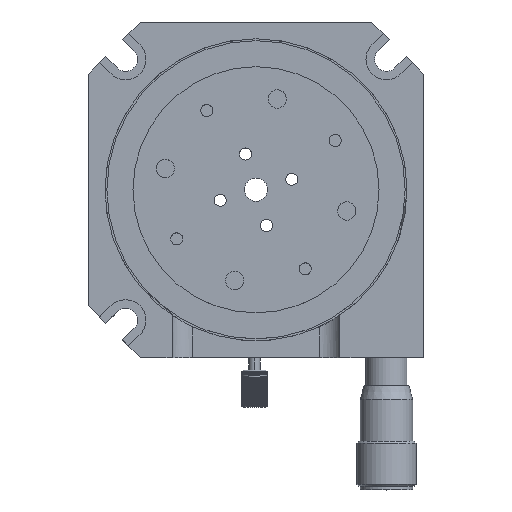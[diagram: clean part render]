
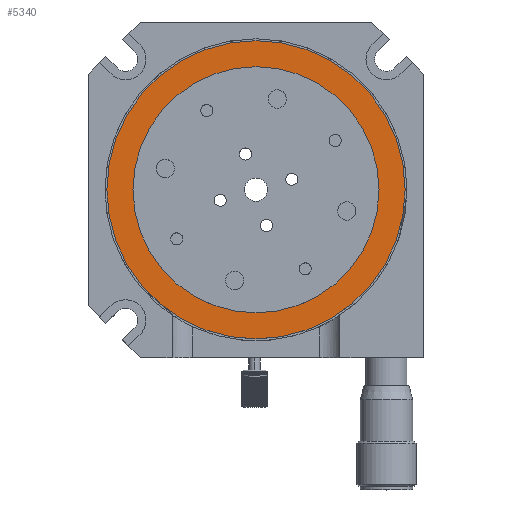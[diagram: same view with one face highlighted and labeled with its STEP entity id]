
A CAD part, top view. The second image highlights one B-rep face of the part: STEP entity #5340.
In plain terms, the highlighted planar face has unit normal (0, 0, 1).
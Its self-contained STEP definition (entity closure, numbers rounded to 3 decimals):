
#5281 = EDGE_CURVE ( 'NONE', #17258, #17332, #6754, .T. ) ;
#5340 = ADVANCED_FACE ( 'NONE', ( #6877, #6876 ), #6875, .T. ) ;
#5341 = EDGE_LOOP ( 'NONE', ( #5342, #5344 ) ) ;
#5342 = ORIENTED_EDGE ( 'NONE', *, *, #5343, .F. ) ;
#5343 = EDGE_CURVE ( 'NONE', #17414, #17340, #6870, .T. ) ;
#5344 = ORIENTED_EDGE ( 'NONE', *, *, #17413, .F. ) ;
#5345 = EDGE_LOOP ( 'NONE', ( #5346, #5347 ) ) ;
#5346 = ORIENTED_EDGE ( 'NONE', *, *, #5281, .T. ) ;
#5347 = ORIENTED_EDGE ( 'NONE', *, *, #17257, .T. ) ;
#6752 = DIRECTION ( 'NONE',  ( 0., 0., 1. ) ) ;
#6753 = AXIS2_PLACEMENT_3D ( 'NONE', #6759, #6752, #6817 ) ;
#6754 = CIRCLE ( 'NONE', #6753, 40. ) ;
#6759 = CARTESIAN_POINT ( 'NONE',  ( 45., 45., 21.4 ) ) ;
#6817 = DIRECTION ( 'NONE',  ( -1., 0., 0. ) ) ;
#6866 = DIRECTION ( 'NONE',  ( -1., 0., 0. ) ) ;
#6867 = DIRECTION ( 'NONE',  ( 0., 0., 1. ) ) ;
#6868 = CARTESIAN_POINT ( 'NONE',  ( 45., 45., 21.4 ) ) ;
#6869 = AXIS2_PLACEMENT_3D ( 'NONE', #6868, #6867, #6866 ) ;
#6870 = CIRCLE ( 'NONE', #6869, 33. ) ;
#6871 = DIRECTION ( 'NONE',  ( 0., -1., 0. ) ) ;
#6872 = DIRECTION ( 'NONE',  ( 0., 0., 1. ) ) ;
#6873 = CARTESIAN_POINT ( 'NONE',  ( 45., 45., 21.4 ) ) ;
#6874 = AXIS2_PLACEMENT_3D ( 'NONE', #6873, #6872, #6871 ) ;
#6875 = PLANE ( 'NONE',  #6874 ) ;
#6876 = FACE_OUTER_BOUND ( 'NONE', #5345, .T. ) ;
#6877 = FACE_BOUND ( 'NONE', #5341, .T. ) ;
#17257 = EDGE_CURVE ( 'NONE', #17332, #17258, #29825, .T. ) ;
#17258 = VERTEX_POINT ( 'NONE', #29820 ) ;
#17332 = VERTEX_POINT ( 'NONE', #29985 ) ;
#17340 = VERTEX_POINT ( 'NONE', #29974 ) ;
#17413 = EDGE_CURVE ( 'NONE', #17340, #17414, #30147, .T. ) ;
#17414 = VERTEX_POINT ( 'NONE', #30142 ) ;
#29820 = CARTESIAN_POINT ( 'NONE',  ( 5., 45., 21.4 ) ) ;
#29821 = DIRECTION ( 'NONE',  ( -1., 0., 0. ) ) ;
#29822 = DIRECTION ( 'NONE',  ( 0., 0., 1. ) ) ;
#29823 = CARTESIAN_POINT ( 'NONE',  ( 45., 45., 21.4 ) ) ;
#29824 = AXIS2_PLACEMENT_3D ( 'NONE', #29823, #29822, #29821 ) ;
#29825 = CIRCLE ( 'NONE', #29824, 40. ) ;
#29974 = CARTESIAN_POINT ( 'NONE',  ( 78., 45., 21.4 ) ) ;
#29985 = CARTESIAN_POINT ( 'NONE',  ( 85., 45., 21.4 ) ) ;
#30142 = CARTESIAN_POINT ( 'NONE',  ( 12., 45., 21.4 ) ) ;
#30143 = DIRECTION ( 'NONE',  ( -1., 0., 0. ) ) ;
#30144 = DIRECTION ( 'NONE',  ( 0., 0., 1. ) ) ;
#30145 = CARTESIAN_POINT ( 'NONE',  ( 45., 45., 21.4 ) ) ;
#30146 = AXIS2_PLACEMENT_3D ( 'NONE', #30145, #30144, #30143 ) ;
#30147 = CIRCLE ( 'NONE', #30146, 33. ) ;
